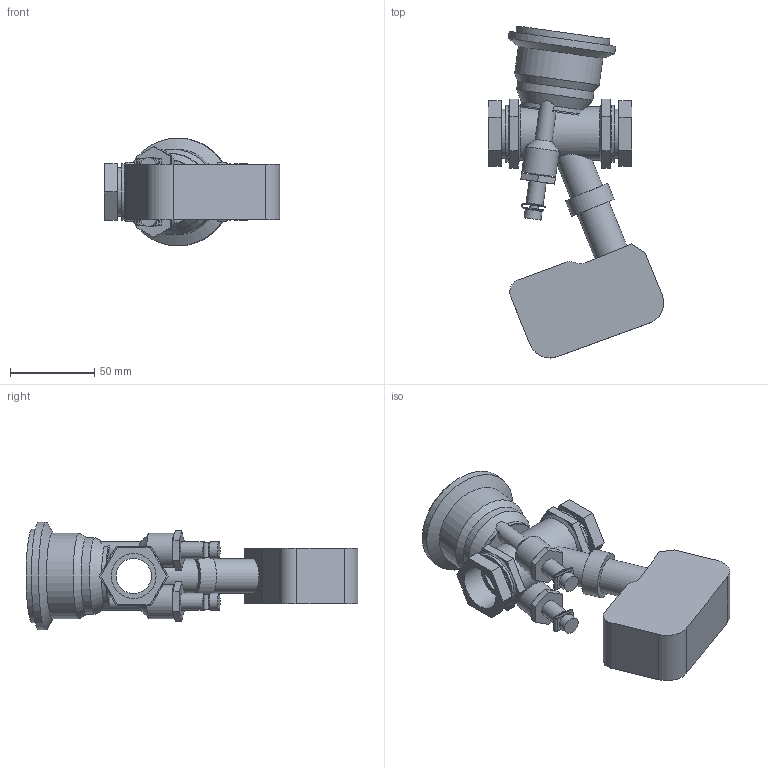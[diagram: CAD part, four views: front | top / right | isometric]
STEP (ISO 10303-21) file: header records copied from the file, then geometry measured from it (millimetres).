
FILE_DESCRIPTION(/* description */ ('VIC BALANCING AND CONTROL VALVE SERIES 7CP (FPT)-TA ACT','CAx-IF Rec.Pracs.---Representation and Presentation of Product Manufacturing Information (PMI)---4.0---2014-10-13'),/* implementation_level */ '2;1');
FILE_NAME(/* name */ 'C:\Users\Vjadhav\AppData\Roaming\Autodesk\ApplicationPlugins\Victaulic.Temp\A633\Victaulic_IPS_Valve Balancing Pressure Independent_TA Series 7CP (FPT)_TA ACT_0.75 (20).stp',/* time_stamp */ '2021-09-14T20:03:25+06:00',/* author */ ('Vjadhav'),/* organization */ ('Victaulic'),/* preprocessor_version */ 'ST-DEVELOPER v17.2',/* originating_system */ 'Autodesk Inventor 2019',/* authorisation */ '');
FILE_SCHEMA (('AP242_MANAGED_MODEL_BASED_3D_ENGINEERING_MIM_LF { 1 0 10303 442 1 1 4 }'));
Length unit declared in the file: inch
Products named in the file (2): 7CP_TA ACT-0.75; 7CP-0.75
Assembly tree (1 placements, depth 2):
  7CP_TA ACT-0.75
    7CP-0.75
Bounding box: 104.11 x 197.36 x 64.01 mm (x, y, z)
Volume: 292766.7 mm3; surface area: 57800.2 mm2
Topology: 1 solids, 1 shells, 173 faces, 441 edges, 294 vertices
Faces by surface type: plane 116, cylinder 48, cone 9
Full cylindrical faces by diameter (mm): 5.08 x6, 10.16 x8, 20.32 x4, 20.93 x2, 26.67 x3, 27.184 x1, 29.21 x2, 31.75 x1, 33.782 x2, 45.72 x1, 50.8 x1, 55.88 x1, 64.008 x1
Entity records: 5824 total; most frequent: CARTESIAN_POINT 1182, DIRECTION 945, ORIENTED_EDGE 882, EDGE_CURVE 441, AXIS2_PLACEMENT_3D 349, VERTEX_POINT 294, LINE 247, VECTOR 247
